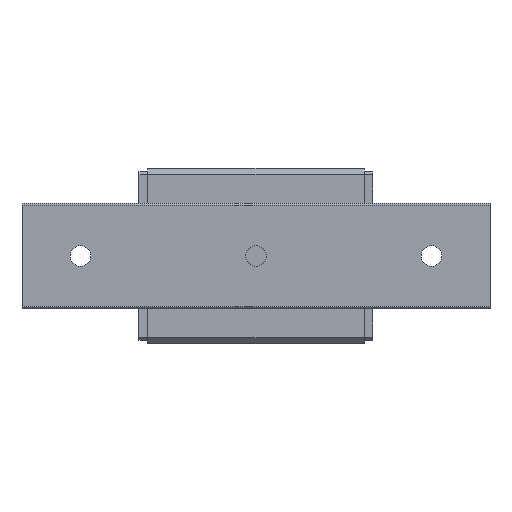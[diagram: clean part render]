
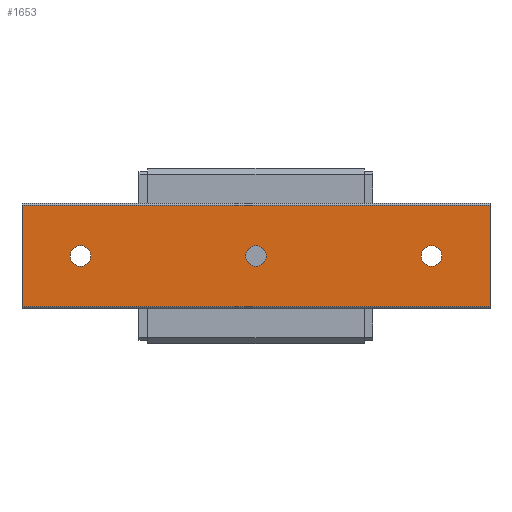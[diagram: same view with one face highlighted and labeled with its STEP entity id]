
A CAD part, front view. The second image highlights one B-rep face of the part: STEP entity #1653.
In plain terms, the highlighted planar face has unit normal (0, -1, 0).
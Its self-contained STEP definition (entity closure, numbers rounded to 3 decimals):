
#70=PLANE('',#1799);
#148=LINE('',#2491,#308);
#149=LINE('',#2499,#309);
#150=LINE('',#2501,#310);
#151=LINE('',#2503,#311);
#308=VECTOR('',#2001,1000.);
#309=VECTOR('',#2010,1000.);
#310=VECTOR('',#2011,1000.);
#311=VECTOR('',#2012,1000.);
#484=ORIENTED_EDGE('',*,*,#908,.F.);
#485=ORIENTED_EDGE('',*,*,#909,.F.);
#486=ORIENTED_EDGE('',*,*,#910,.F.);
#487=ORIENTED_EDGE('',*,*,#911,.T.);
#488=ORIENTED_EDGE('',*,*,#907,.F.);
#489=ORIENTED_EDGE('',*,*,#912,.F.);
#490=ORIENTED_EDGE('',*,*,#913,.T.);
#907=EDGE_CURVE('',#1115,#1114,#148,.T.);
#908=EDGE_CURVE('',#1116,#1116,#1266,.T.);
#909=EDGE_CURVE('',#1117,#1117,#1267,.T.);
#910=EDGE_CURVE('',#1118,#1118,#1268,.T.);
#911=EDGE_CURVE('',#1119,#1114,#149,.T.);
#912=EDGE_CURVE('',#1120,#1115,#150,.T.);
#913=EDGE_CURVE('',#1120,#1119,#151,.T.);
#1114=VERTEX_POINT('',#2488);
#1115=VERTEX_POINT('',#2490);
#1116=VERTEX_POINT('',#2494);
#1117=VERTEX_POINT('',#2496);
#1118=VERTEX_POINT('',#2498);
#1119=VERTEX_POINT('',#2500);
#1120=VERTEX_POINT('',#2502);
#1266=CIRCLE('',#1800,1.75);
#1267=CIRCLE('',#1801,1.75);
#1268=CIRCLE('',#1802,1.75);
#1327=EDGE_LOOP('',(#484));
#1328=EDGE_LOOP('',(#485));
#1329=EDGE_LOOP('',(#486));
#1330=EDGE_LOOP('',(#487,#488,#489,#490));
#1475=FACE_BOUND('',#1327,.T.);
#1476=FACE_BOUND('',#1328,.T.);
#1477=FACE_BOUND('',#1329,.T.);
#1478=FACE_BOUND('',#1330,.T.);
#1653=ADVANCED_FACE('',(#1475,#1476,#1477,#1478),#70,.F.);
#1799=AXIS2_PLACEMENT_3D('',#2492,#2002,#2003);
#1800=AXIS2_PLACEMENT_3D('',#2493,#2004,#2005);
#1801=AXIS2_PLACEMENT_3D('',#2495,#2006,#2007);
#1802=AXIS2_PLACEMENT_3D('',#2497,#2008,#2009);
#2001=DIRECTION('',(-1.,0.,0.));
#2002=DIRECTION('',(0.,1.,0.));
#2003=DIRECTION('',(0.,0.,1.));
#2004=DIRECTION('',(0.,-1.,0.));
#2005=DIRECTION('',(0.,0.,-1.));
#2006=DIRECTION('',(0.,-1.,0.));
#2007=DIRECTION('',(0.,0.,-1.));
#2008=DIRECTION('',(0.,-1.,0.));
#2009=DIRECTION('',(0.,0.,-1.));
#2010=DIRECTION('',(0.,0.,-1.));
#2011=DIRECTION('',(0.,0.,-1.));
#2012=DIRECTION('',(-1.,0.,0.));
#2488=CARTESIAN_POINT('',(0.,0.,-8.7));
#2490=CARTESIAN_POINT('',(80.,0.,-8.7));
#2491=CARTESIAN_POINT('',(80.,0.,-8.7));
#2492=CARTESIAN_POINT('',(80.,0.,8.7));
#2493=CARTESIAN_POINT('',(40.,0.,0.));
#2494=CARTESIAN_POINT('',(40.,0.,-1.75));
#2495=CARTESIAN_POINT('',(70.,0.,0.));
#2496=CARTESIAN_POINT('',(70.,0.,-1.75));
#2497=CARTESIAN_POINT('',(10.,0.,0.));
#2498=CARTESIAN_POINT('',(10.,0.,-1.75));
#2499=CARTESIAN_POINT('',(0.,0.,8.7));
#2500=CARTESIAN_POINT('',(0.,0.,8.7));
#2501=CARTESIAN_POINT('',(80.,0.,8.7));
#2502=CARTESIAN_POINT('',(80.,0.,8.7));
#2503=CARTESIAN_POINT('',(80.,0.,8.7));
